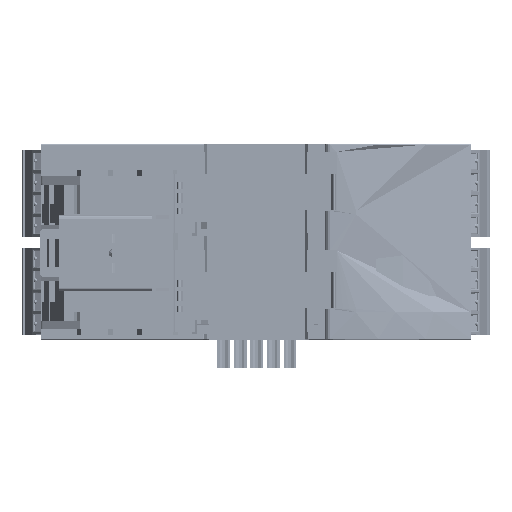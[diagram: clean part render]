
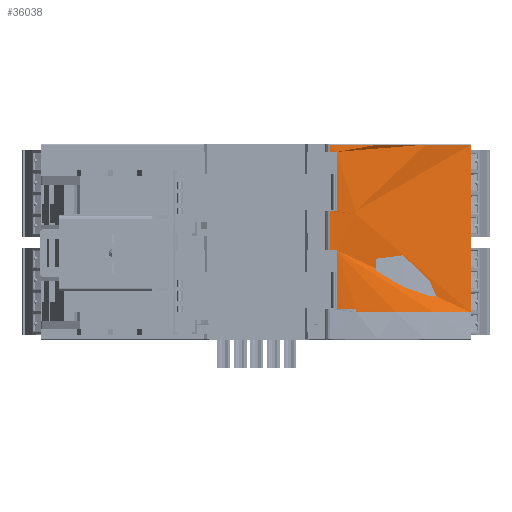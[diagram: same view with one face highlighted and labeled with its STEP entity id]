
A CAD part, top view. The second image highlights one B-rep face of the part: STEP entity #36038.
In plain terms, the highlighted cylindrical face has radius 77.596 mm (diameter 155.192 mm), a partial arc.
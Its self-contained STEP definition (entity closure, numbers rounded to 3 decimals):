
#36038=ADVANCED_FACE('',(#163295,#163297),#163299,.T.);
#163295=FACE_BOUND('',#163296,.T.);
#163296=EDGE_LOOP('',(#305169,#305170,#305171,#305172,#305173,#305174,#305175,#305176,
#305177,#305178,#305179,#305180));
#163297=FACE_BOUND('',#163298,.T.);
#163298=EDGE_LOOP('',(#305181,#305182,#305183,#305184));
#163299=CYLINDRICAL_SURFACE('',#163300,77.596);
#163300=AXIS2_PLACEMENT_3D('',#163301,#163302,#163303);
#163301=CARTESIAN_POINT('',(16.,0.,-77.596));
#163302=DIRECTION('',(0.,1.,0.));
#163303=DIRECTION('',(1.,0.,0.));
#305169=ORIENTED_EDGE('',*,*,#421650,.T.);
#305170=ORIENTED_EDGE('',*,*,#421617,.T.);
#305171=ORIENTED_EDGE('',*,*,#421603,.T.);
#305172=ORIENTED_EDGE('',*,*,#421649,.F.);
#305173=ORIENTED_EDGE('',*,*,#421651,.T.);
#305174=ORIENTED_EDGE('',*,*,#421652,.T.);
#305175=ORIENTED_EDGE('',*,*,#421653,.F.);
#305176=ORIENTED_EDGE('',*,*,#421654,.T.);
#305177=ORIENTED_EDGE('',*,*,#421655,.F.);
#305178=ORIENTED_EDGE('',*,*,#421226,.T.);
#305179=ORIENTED_EDGE('',*,*,#421656,.F.);
#305180=ORIENTED_EDGE('',*,*,#421657,.F.);
#305181=ORIENTED_EDGE('',*,*,#421592,.F.);
#305182=ORIENTED_EDGE('',*,*,#416785,.F.);
#305183=ORIENTED_EDGE('',*,*,#421643,.T.);
#305184=ORIENTED_EDGE('',*,*,#421658,.T.);
#416785=EDGE_CURVE('',#489964,#489962,#489966,.T.);
#421226=EDGE_CURVE('',#497027,#497025,#497028,.T.);
#421592=EDGE_CURVE('',#489962,#497559,#497560,.T.);
#421603=EDGE_CURVE('',#497576,#497574,#497577,.T.);
#421617=EDGE_CURVE('',#497600,#497576,#497601,.T.);
#421643=EDGE_CURVE('',#489964,#497642,#497644,.T.);
#421649=EDGE_CURVE('',#497652,#497574,#497654,.T.);
#421650=EDGE_CURVE('',#497655,#497600,#497656,.T.);
#421651=EDGE_CURVE('',#497652,#497657,#497658,.T.);
#421652=EDGE_CURVE('',#497657,#497659,#497660,.T.);
#421653=EDGE_CURVE('',#497661,#497659,#497662,.T.);
#421654=EDGE_CURVE('',#497661,#497663,#497664,.T.);
#421655=EDGE_CURVE('',#497027,#497663,#497665,.T.);
#421656=EDGE_CURVE('',#497666,#497025,#497667,.T.);
#421657=EDGE_CURVE('',#497655,#497666,#497668,.T.);
#421658=EDGE_CURVE('',#497642,#497559,#497669,.T.);
#489962=VERTEX_POINT('',#594850);
#489964=VERTEX_POINT('',#594854);
#489966=CIRCLE('',#594858,77.596);
#497025=VERTEX_POINT('',#614613);
#497027=VERTEX_POINT('',#614618);
#497028=CIRCLE('',#614619,77.596);
#497559=VERTEX_POINT('',#616057);
#497560=LINE('',#616058,#616059);
#497574=VERTEX_POINT('',#616092);
#497576=VERTEX_POINT('',#616096);
#497577=LINE('',#616097,#616098);
#497600=VERTEX_POINT('',#616148);
#497601=CIRCLE('',#616149,77.596);
#497642=VERTEX_POINT('',#616242);
#497644=LINE('',#616246,#616247);
#497652=VERTEX_POINT('',#616264);
#497654=CIRCLE('',#616269,77.596);
#497655=VERTEX_POINT('',#616273);
#497656=LINE('',#616274,#616275);
#497657=VERTEX_POINT('',#616277);
#497658=LINE('',#616278,#616279);
#497659=VERTEX_POINT('',#616281);
#497660=CIRCLE('',#616282,77.596);
#497661=VERTEX_POINT('',#616286);
#497662=LINE('',#616287,#616288);
#497663=VERTEX_POINT('',#616290);
#497664=CIRCLE('',#616291,77.596);
#497665=LINE('',#616295,#616296);
#497666=VERTEX_POINT('',#616298);
#497667=LINE('',#616299,#616300);
#497668=CIRCLE('',#616302,77.596);
#497669=CIRCLE('',#616306,77.596);
#594850=CARTESIAN_POINT('',(23.1,28.8,-0.326));
#594854=CARTESIAN_POINT('',(23.,28.8,-0.316));
#594858=AXIS2_PLACEMENT_3D('',#594859,#594860,#594861);
#594859=CARTESIAN_POINT('',(16.,28.8,-77.596));
#594860=DIRECTION('',(0.,1.,0.));
#594861=DIRECTION('',(0.09,0.,0.996));
#614613=CARTESIAN_POINT('',(49.587,6.2,-7.645));
#614618=CARTESIAN_POINT('',(23.1,6.2,-0.326));
#614619=AXIS2_PLACEMENT_3D('',#614620,#614621,#614622);
#614620=CARTESIAN_POINT('',(16.,6.2,-77.596));
#614621=DIRECTION('',(0.,1.,0.));
#614622=DIRECTION('',(0.091,0.,0.996));
#616057=CARTESIAN_POINT('',(23.1,29.6,-0.326));
#616058=CARTESIAN_POINT('',(23.1,28.8,-0.326));
#616059=VECTOR('',#616060,1.);
#616060=DIRECTION('',(0.,1.,0.));
#616092=CARTESIAN_POINT('',(18.6,29.6,-0.044));
#616096=CARTESIAN_POINT('',(18.6,43.2,-0.044));
#616097=CARTESIAN_POINT('',(18.6,43.2,-0.044));
#616098=VECTOR('',#616099,1.);
#616099=DIRECTION('',(0.,-1.,0.));
#616148=CARTESIAN_POINT('',(17.013,43.2,-0.007));
#616149=AXIS2_PLACEMENT_3D('',#616150,#616151,#616152);
#616150=CARTESIAN_POINT('',(16.,43.2,-77.596));
#616151=DIRECTION('',(0.,1.,0.));
#616152=DIRECTION('',(0.013,0.,1.));
#616242=CARTESIAN_POINT('',(23.,29.6,-0.316));
#616246=CARTESIAN_POINT('',(23.,28.8,-0.316));
#616247=VECTOR('',#616248,1.);
#616248=DIRECTION('',(0.,1.,0.));
#616264=CARTESIAN_POINT('',(17.013,29.6,-0.007));
#616269=AXIS2_PLACEMENT_3D('',#616270,#616271,#616272);
#616270=CARTESIAN_POINT('',(16.,29.6,-77.596));
#616271=DIRECTION('',(0.,1.,0.));
#616272=DIRECTION('',(0.013,0.,1.));
#616273=CARTESIAN_POINT('',(17.013,44.9,-0.007));
#616274=CARTESIAN_POINT('',(17.013,44.9,-0.007));
#616275=VECTOR('',#616276,1.);
#616276=DIRECTION('',(0.,-1.,0.));
#616277=CARTESIAN_POINT('',(17.013,20.5,-0.007));
#616278=CARTESIAN_POINT('',(17.013,29.6,-0.007));
#616279=VECTOR('',#616280,1.);
#616280=DIRECTION('',(0.,-1.,0.));
#616281=CARTESIAN_POINT('',(18.6,20.5,-0.044));
#616282=AXIS2_PLACEMENT_3D('',#616283,#616284,#616285);
#616283=CARTESIAN_POINT('',(16.,20.5,-77.596));
#616284=DIRECTION('',(0.,1.,0.));
#616285=DIRECTION('',(0.013,0.,1.));
#616286=CARTESIAN_POINT('',(18.6,7.,-0.044));
#616287=CARTESIAN_POINT('',(18.6,7.,-0.044));
#616288=VECTOR('',#616289,1.);
#616289=DIRECTION('',(0.,1.,0.));
#616290=CARTESIAN_POINT('',(23.1,7.,-0.326));
#616291=AXIS2_PLACEMENT_3D('',#616292,#616293,#616294);
#616292=CARTESIAN_POINT('',(16.,7.,-77.596));
#616293=DIRECTION('',(0.,1.,0.));
#616294=DIRECTION('',(0.034,0.,0.999));
#616295=CARTESIAN_POINT('',(23.1,6.2,-0.326));
#616296=VECTOR('',#616297,1.);
#616297=DIRECTION('',(0.,1.,0.));
#616298=CARTESIAN_POINT('',(49.587,44.9,-7.645));
#616299=CARTESIAN_POINT('',(49.587,44.9,-7.645));
#616300=VECTOR('',#616301,1.);
#616301=DIRECTION('',(0.,-1.,0.));
#616302=AXIS2_PLACEMENT_3D('',#616303,#616304,#616305);
#616303=CARTESIAN_POINT('',(16.,44.9,-77.596));
#616304=DIRECTION('',(0.,1.,0.));
#616305=DIRECTION('',(0.013,0.,1.));
#616306=AXIS2_PLACEMENT_3D('',#616307,#616308,#616309);
#616307=CARTESIAN_POINT('',(16.,29.6,-77.596));
#616308=DIRECTION('',(0.,1.,0.));
#616309=DIRECTION('',(0.09,0.,0.996));
